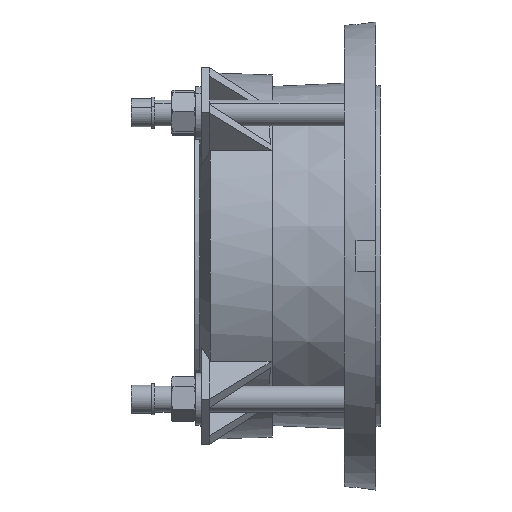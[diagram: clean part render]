
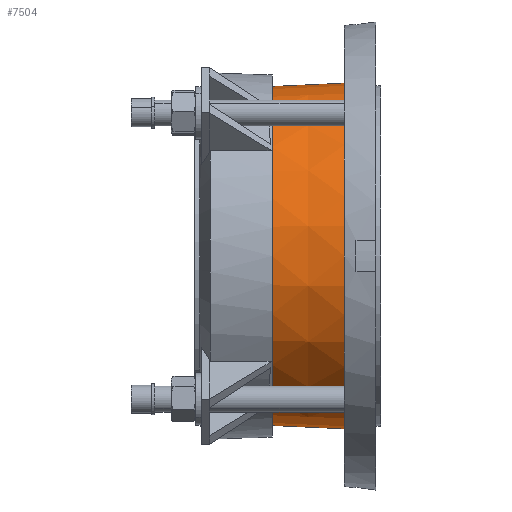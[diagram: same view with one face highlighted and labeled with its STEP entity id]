
A CAD part, left-side view. The second image highlights one B-rep face of the part: STEP entity #7504.
In plain terms, the highlighted conical face has half-angle 2.603 degrees and reference radius 105 mm.
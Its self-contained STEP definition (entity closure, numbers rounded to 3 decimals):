
#149 = CONICAL_SURFACE ( 'NONE', #11603, 105., 0.045 ) ;
#239 = AXIS2_PLACEMENT_3D ( 'NONE', #869, #11719, #4019 ) ;
#521 = LINE ( 'NONE', #7178, #1098 ) ;
#563 = VERTEX_POINT ( 'NONE', #9968 ) ;
#661 = DIRECTION ( 'NONE',  ( 0., 0., -1. ) ) ;
#752 = ORIENTED_EDGE ( 'NONE', *, *, #8710, .T. ) ;
#869 = CARTESIAN_POINT ( 'NONE',  ( 0., 19., 0. ) ) ;
#1098 = VECTOR ( 'NONE', #6103, 1000. ) ;
#1253 = LINE ( 'NONE', #10004, #2485 ) ;
#1265 = EDGE_CURVE ( 'Defeatured_0_1+Defeatured_0_2+Defeatured_0_2+Defeatured_0_2', #12916, #10201, #5505, .T. ) ;
#2266 = DIRECTION ( 'NONE',  ( 0., 0., -1. ) ) ;
#2456 = EDGE_LOOP ( 'NONE', ( #5249, #8495, #752, #9287 ) ) ;
#2485 = VECTOR ( 'NONE', #3333, 1000. ) ;
#3114 = DIRECTION ( 'NONE',  ( 0., 1., 0. ) ) ;
#3333 = DIRECTION ( 'NONE',  ( 0., -0.999, 0.045 ) ) ;
#4019 = DIRECTION ( 'NONE',  ( 0., 0., -1. ) ) ;
#4077 = AXIS2_PLACEMENT_3D ( 'NONE', #12096, #3114, #2266 ) ;
#5249 = ORIENTED_EDGE ( 'NONE', *, *, #9499, .F. ) ;
#5505 = CIRCLE ( 'NONE', #239, 105. ) ;
#6103 = DIRECTION ( 'NONE',  ( 0., -0.999, -0.045 ) ) ;
#7178 = CARTESIAN_POINT ( 'NONE',  ( 0., 19., -105. ) ) ;
#7416 = CARTESIAN_POINT ( 'NONE',  ( 0., 63., 103. ) ) ;
#7504 = ADVANCED_FACE ( 'Defeatured_0_2', ( #14071 ), #149, .T. ) ;
#8495 = ORIENTED_EDGE ( 'NONE', *, *, #9582, .F. ) ;
#8710 = EDGE_CURVE ( 'NONE', #563, #10201, #521, .T. ) ;
#9287 = ORIENTED_EDGE ( 'NONE', *, *, #1265, .F. ) ;
#9491 = VERTEX_POINT ( 'NONE', #7416 ) ;
#9499 = EDGE_CURVE ( 'NONE', #9491, #12916, #1253, .T. ) ;
#9582 = EDGE_CURVE ( 'Defeatured_0_33+Defeatured_0_2+Defeatured_0_2+Defeatured_0_2', #563, #9491, #10497, .T. ) ;
#9831 = CARTESIAN_POINT ( 'NONE',  ( 0., 19., 105. ) ) ;
#9968 = CARTESIAN_POINT ( 'NONE',  ( 0., 63., -103. ) ) ;
#10004 = CARTESIAN_POINT ( 'NONE',  ( 0., 19., 105. ) ) ;
#10201 = VERTEX_POINT ( 'NONE', #11710 ) ;
#10280 = CARTESIAN_POINT ( 'NONE',  ( 0., 19., 0. ) ) ;
#10497 = CIRCLE ( 'NONE', #4077, 103. ) ;
#11569 = DIRECTION ( 'NONE',  ( 0., -1., 0. ) ) ;
#11603 = AXIS2_PLACEMENT_3D ( 'NONE', #10280, #11569, #661 ) ;
#11710 = CARTESIAN_POINT ( 'NONE',  ( 0., 19., -105. ) ) ;
#11719 = DIRECTION ( 'NONE',  ( 0., -1., 0. ) ) ;
#12096 = CARTESIAN_POINT ( 'NONE',  ( 0., 63., 0. ) ) ;
#12916 = VERTEX_POINT ( 'NONE', #9831 ) ;
#14071 = FACE_OUTER_BOUND ( 'NONE', #2456, .T. ) ;
